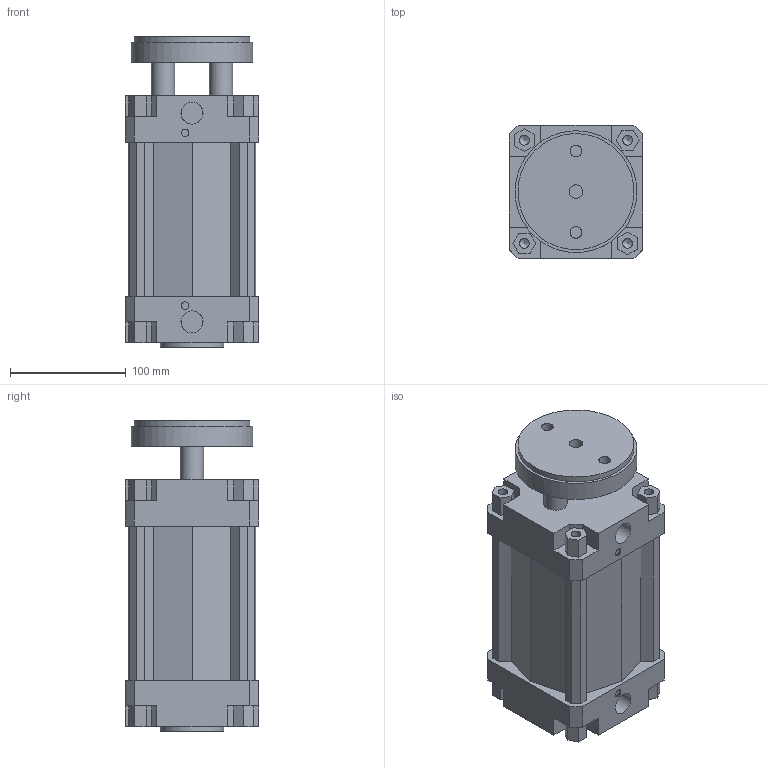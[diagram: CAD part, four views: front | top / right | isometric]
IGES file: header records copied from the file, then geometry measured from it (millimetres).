
Global section: file name: 132#_100_0075_01; native system: Autodesk Inventor 2014; preprocessor: unknown; author: A. Manieri; date: 20161006.163634; units: millimetre
Bounding box: 115 x 115 x 268 mm (x, y, z)
Volume: 2010743.8 mm3; surface area: 281232.8 mm2
Topology: 2 solids, 2 shells, 180 faces, 491 edges, 335 vertices
Faces by surface type: bspline 180
